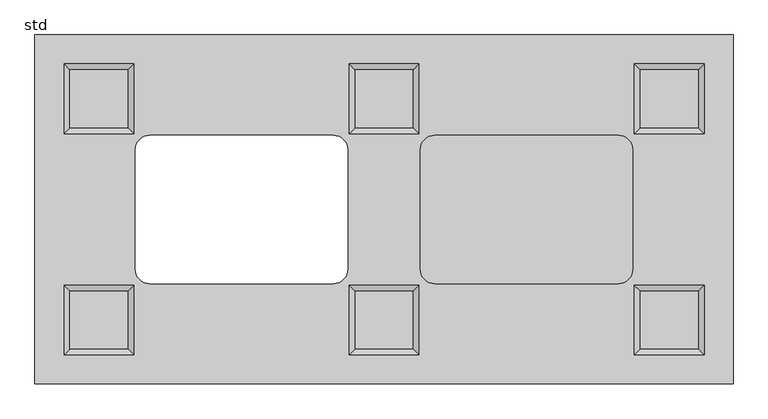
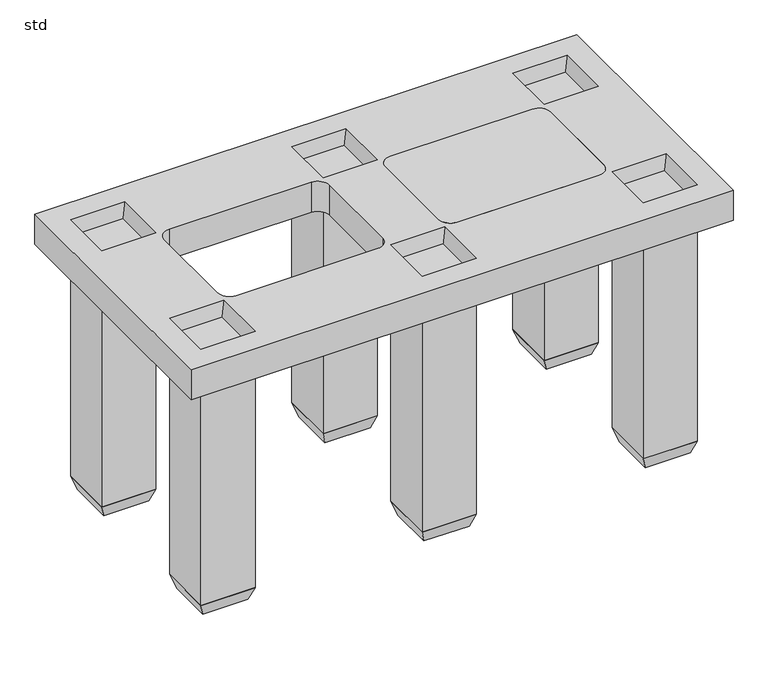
"""IFC4 building model written with IfcOpenShell, lengths in millimetres: unitary equipment geometry, Wavin_MechanicalEquipment_QBicPlusZDoNotUseInfiltrationUnit : std."""

from ifc_helpers import new_model, si_unit, point, frame, frame_2d, origin, origin_with_axes, place, context, project, spatial, polyline, circle_curve, trimmed, segment, composite_curve, outline, extrude, faceted_brep, source, transform, mapped, element, save
from ifc_brep_helpers import plane_surface, revolved_surface, advanced_brep


def std_48edb1db(model_context):
    return source(origin(), model_context, "Body", "SolidModel", [
        extrude(outline(composite_curve([segment(polyline([(687.5, 427.5), (1002.5, 427.5)]), True, "CONTINUOUS"), segment(trimmed(circle_curve(frame_2d((1002.5, 402.5)), 25.0), [point((1002.5, 427.5))], [point((1027.5, 402.5))], False, "CARTESIAN"), True, "CONTINUOUS"), segment(polyline([(1027.5, 402.5), (1027.5, 197.5)]), True, "CONTINUOUS"), segment(trimmed(circle_curve(frame_2d((1002.5, 197.5)), 25.0), [point((1027.5, 197.5))], [point((1002.5, 172.5))], False, "CARTESIAN"), True, "CONTINUOUS"), segment(polyline([(1002.5, 172.5), (687.5, 172.5)]), True, "CONTINUOUS"), segment(trimmed(circle_curve(frame_2d((687.5, 197.5)), 25.0), [point((687.5, 172.5))], [point((662.5, 197.5))], False, "CARTESIAN"), True, "CONTINUOUS"), segment(polyline([(662.5, 197.5), (662.5, 402.5)]), True, "CONTINUOUS"), segment(trimmed(circle_curve(frame_2d((687.5, 402.5)), 25.0), [point((662.5, 402.5))], [point((687.5, 427.5))], False, "CARTESIAN"), True, "CONTINUOUS")], self_intersect=False)), frame((0.0, 0.0, 530.0), z_axis=(0.0, 0.0, 1.0), x_axis=(1.0, 0.0, 0.0)), (0.0, 0.0, 1.0), 70.0),
        advanced_brep(
        [(1200.0, 600.0, 600.0), (0.0, 600.0, 600.0), (0.0, 0.0, 600.0), (1200.0, 0.0, 600.0), (50.0, 550.0, 600.0), (170.0, 550.0, 600.0), (170.0, 430.0, 600.0), (50.0, 430.0, 600.0), (50.0, 170.0, 600.0), (170.0, 170.0, 600.0), (170.0, 50.0, 600.0), (50.0, 50.0, 600.0), (540.0, 170.0, 600.0), (660.0, 170.0, 600.0), (660.0, 50.0, 600.0), (540.0, 50.0, 600.0), (540.0, 550.0, 600.0), (660.0, 550.0, 600.0), (660.0, 430.0, 600.0), (540.0, 430.0, 600.0), (1030.0, 550.0, 600.0), (1150.0, 550.0, 600.0), (1150.0, 430.0, 600.0), (1030.0, 430.0, 600.0), (1030.0, 170.0, 600.0), (1150.0, 170.0, 600.0), (1150.0, 50.0, 600.0), (1030.0, 50.0, 600.0), (172.5, 402.5, 600.0), (197.5, 427.5, 600.0), (512.5, 427.5, 600.0), (537.5, 402.5, 600.0), (537.5, 197.5, 600.0), (512.5, 172.5, 600.0), (197.5, 172.5, 600.0), (172.5, 197.5, 600.0), (662.5, 402.5, 600.0), (687.5, 427.5, 600.0), (1002.5, 427.5, 600.0), (1027.5, 402.5, 600.0), (1027.5, 197.5, 600.0), (1002.5, 172.5, 600.0), (687.5, 172.5, 600.0), (662.5, 197.5, 600.0), (1200.0, 600.0, 530.0), (1200.0, 0.0, 530.0), (0.0, 0.0, 530.0), (0.0, 600.0, 530.0), (172.5, 402.5, 530.0), (172.5, 197.5, 530.0), (197.5, 172.5, 530.0), (512.5, 172.5, 530.0), (537.5, 197.5, 530.0), (537.5, 402.5, 530.0), (512.5, 427.5, 530.0), (197.5, 427.5, 530.0), (662.5, 402.5, 530.0), (662.5, 197.5, 530.0), (687.5, 172.5, 530.0), (1002.5, 172.5, 530.0), (1027.5, 197.5, 530.0), (1027.5, 402.5, 530.0), (1002.5, 427.5, 530.0), (687.5, 427.5, 530.0), (160.0, 540.0, 570.0), (60.0, 540.0, 570.0), (60.0, 440.0, 570.0), (160.0, 440.0, 570.0), (160.0, 160.0, 570.0), (60.0, 160.0, 570.0), (60.0, 60.0, 570.0), (160.0, 60.0, 570.0), (650.0, 540.0, 570.0), (550.0, 540.0, 570.0), (550.0, 440.0, 570.0), (650.0, 440.0, 570.0), (1140.0, 540.0, 570.0), (1040.0, 540.0, 570.0), (1040.0, 440.0, 570.0), (1140.0, 440.0, 570.0), (650.0, 160.0, 570.0), (550.0, 160.0, 570.0), (550.0, 60.0, 570.0), (650.0, 60.0, 570.0), (1140.0, 160.0, 570.0), (1040.0, 160.0, 570.0), (1040.0, 60.0, 570.0), (1140.0, 60.0, 570.0)],
        [
            (0, 1),
            (1, 2),
            (2, 3),
            (3, 0),
            (4, 5),
            (5, 6),
            (6, 7),
            (7, 4),
            (8, 9),
            (9, 10),
            (10, 11),
            (11, 8),
            (12, 13),
            (13, 14),
            (14, 15),
            (15, 12),
            (16, 17),
            (17, 18),
            (18, 19),
            (19, 16),
            (20, 21),
            (21, 22),
            (22, 23),
            (23, 20),
            (24, 25),
            (25, 26),
            (26, 27),
            (27, 24),
            (28, 29, circle_curve(frame((197.5, 402.5, 600.0), z_axis=(0.0, 0.0, -1.0), x_axis=(1.0, 0.0, 0.0)), 25.0)),
            (29, 30),
            (30, 31, circle_curve(frame((512.5, 402.5, 600.0), z_axis=(0.0, 0.0, -1.0), x_axis=(1.0, 0.0, 0.0)), 25.0)),
            (31, 32),
            (32, 33, circle_curve(frame((512.5, 197.5, 600.0), z_axis=(0.0, 0.0, -1.0), x_axis=(1.0, 0.0, 0.0)), 25.0)),
            (33, 34),
            (34, 35, circle_curve(frame((197.5, 197.5, 600.0), z_axis=(0.0, 0.0, -1.0), x_axis=(1.0, 0.0, 0.0)), 25.0)),
            (35, 28),
            (36, 37, circle_curve(frame((687.5, 402.5, 600.0), z_axis=(0.0, 0.0, -1.0), x_axis=(1.0, 0.0, 0.0)), 25.0)),
            (37, 38),
            (38, 39, circle_curve(frame((1002.5, 402.5, 600.0), z_axis=(0.0, 0.0, -1.0), x_axis=(1.0, 0.0, 0.0)), 25.0)),
            (39, 40),
            (40, 41, circle_curve(frame((1002.5, 197.5, 600.0), z_axis=(0.0, 0.0, -1.0), x_axis=(1.0, 0.0, 0.0)), 25.0)),
            (41, 42),
            (42, 43, circle_curve(frame((687.5, 197.5, 600.0), z_axis=(0.0, 0.0, -1.0), x_axis=(1.0, 0.0, 0.0)), 25.0)),
            (43, 36),
            (44, 45),
            (45, 46),
            (46, 47),
            (47, 44),
            (48, 49),
            (49, 50, circle_curve(frame((197.5, 197.5, 530.0), z_axis=(0.0, 0.0, 1.0), x_axis=(1.0, 0.0, 0.0)), 25.0)),
            (50, 51),
            (51, 52, circle_curve(frame((512.5, 197.5, 530.0), z_axis=(0.0, 0.0, 1.0), x_axis=(1.0, 0.0, 0.0)), 25.0)),
            (52, 53),
            (53, 54, circle_curve(frame((512.5, 402.5, 530.0), z_axis=(0.0, 0.0, 1.0), x_axis=(1.0, 0.0, 0.0)), 25.0)),
            (54, 55),
            (55, 48, circle_curve(frame((197.5, 402.5, 530.0), z_axis=(0.0, 0.0, 1.0), x_axis=(1.0, 0.0, 0.0)), 25.0)),
            (56, 57),
            (57, 58, circle_curve(frame((687.5, 197.5, 530.0), z_axis=(0.0, 0.0, 1.0), x_axis=(1.0, 0.0, 0.0)), 25.0)),
            (58, 59),
            (59, 60, circle_curve(frame((1002.5, 197.5, 530.0), z_axis=(0.0, 0.0, 1.0), x_axis=(1.0, 0.0, 0.0)), 25.0)),
            (60, 61),
            (61, 62, circle_curve(frame((1002.5, 402.5, 530.0), z_axis=(0.0, 0.0, 1.0), x_axis=(1.0, 0.0, 0.0)), 25.0)),
            (62, 63),
            (63, 56, circle_curve(frame((687.5, 402.5, 530.0), z_axis=(0.0, 0.0, 1.0), x_axis=(1.0, 0.0, 0.0)), 25.0)),
            (0, 44),
            (47, 1),
            (46, 2),
            (45, 3),
            (64, 65),
            (65, 66),
            (66, 67),
            (67, 64),
            (64, 5),
            (4, 65),
            (7, 66),
            (6, 67),
            (68, 69),
            (69, 70),
            (70, 71),
            (71, 68),
            (68, 9),
            (8, 69),
            (11, 70),
            (10, 71),
            (72, 73),
            (73, 74),
            (74, 75),
            (75, 72),
            (72, 17),
            (16, 73),
            (19, 74),
            (18, 75),
            (76, 77),
            (77, 78),
            (78, 79),
            (79, 76),
            (76, 21),
            (20, 77),
            (23, 78),
            (22, 79),
            (80, 81),
            (81, 82),
            (82, 83),
            (83, 80),
            (80, 13),
            (12, 81),
            (15, 82),
            (14, 83),
            (84, 85),
            (85, 86),
            (86, 87),
            (87, 84),
            (84, 25),
            (24, 85),
            (27, 86),
            (26, 87),
            (28, 48),
            (55, 29),
            (54, 30),
            (53, 31),
            (52, 32),
            (51, 33),
            (50, 34),
            (49, 35),
            (36, 56),
            (63, 37),
            (62, 38),
            (61, 39),
            (60, 40),
            (59, 41),
            (58, 42),
            (57, 43),
        ],
        [
            plane_surface(frame((0.0, 600.0, 600.0), z_axis=(0.0, 0.0, 1.0), x_axis=(-1.0, 0.0, 0.0))),
            plane_surface(frame((0.0, 600.0, 530.0), z_axis=(0.0, 0.0, -1.0), x_axis=(1.0, 0.0, 0.0))),
            plane_surface(frame((1200.0, 600.0, 600.0), z_axis=(0.0, 1.0, 0.0), x_axis=(0.0, 0.0, -1.0))),
            plane_surface(frame((0.0, 600.0, 600.0), z_axis=(-1.0, 0.0, 0.0), x_axis=(0.0, 0.0, -1.0))),
            plane_surface(frame((0.0, 0.0, 600.0), z_axis=(0.0, -1.0, 0.0), x_axis=(0.0, 0.0, -1.0))),
            plane_surface(frame((1200.0, 0.0, 600.0), z_axis=(1.0, 0.0, 0.0), x_axis=(0.0, 0.0, -1.0))),
            plane_surface(frame((110.0, 490.0, 570.0), z_axis=(0.0, 0.0, 1.0), x_axis=(-1.0, 0.0, 0.0))),
            plane_surface(frame((110.0, 550.0, 600.0), z_axis=(0.0, -0.9486832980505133, 0.3162277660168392), x_axis=(1.0, 0.0, 0.0))),
            plane_surface(frame((50.0, 490.0, 600.0), z_axis=(0.9486832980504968, 0.0, 0.3162277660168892), x_axis=(0.0, 1.0, 0.0))),
            plane_surface(frame((110.0, 430.0, 600.0), z_axis=(0.0, 0.9486832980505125, 0.31622776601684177), x_axis=(-1.0, 0.0, 0.0))),
            plane_surface(frame((170.0, 490.0, 600.0), z_axis=(-0.948683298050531, 0.0, 0.3162277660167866), x_axis=(0.0, -1.0, 0.0))),
            plane_surface(frame((110.0, 110.0, 570.0), z_axis=(0.0, 0.0, 1.0), x_axis=(-1.0, 0.0, 0.0))),
            plane_surface(frame((110.0, 170.0, 600.0), z_axis=(0.0, -0.9486832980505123, 0.31622776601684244), x_axis=(1.0, 0.0, 0.0))),
            plane_surface(frame((50.0, 110.0, 600.0), z_axis=(0.948683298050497, 0.0, 0.3162277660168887), x_axis=(0.0, 1.0, 0.0))),
            plane_surface(frame((110.0, 50.0, 600.0), z_axis=(0.0, 0.9486832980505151, 0.31622776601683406), x_axis=(-1.0, 0.0, 0.0))),
            plane_surface(frame((170.0, 110.0, 600.0), z_axis=(-0.9486832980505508, 0.0, 0.31622776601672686), x_axis=(0.0, -1.0, 0.0))),
            plane_surface(frame((600.0, 490.0, 570.0), z_axis=(0.0, 0.0, 1.0), x_axis=(-1.0, 0.0, 0.0))),
            plane_surface(frame((600.0, 550.0, 600.0), z_axis=(0.0, -0.9486832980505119, 0.3162277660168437), x_axis=(1.0, 0.0, 0.0))),
            plane_surface(frame((540.0, 490.0, 600.0), z_axis=(0.9486832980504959, 0.0, 0.3162277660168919), x_axis=(0.0, 1.0, 0.0))),
            plane_surface(frame((600.0, 430.0, 600.0), z_axis=(0.0, 0.948683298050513, 0.31622776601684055), x_axis=(-1.0, 0.0, 0.0))),
            plane_surface(frame((660.0, 490.0, 600.0), z_axis=(-0.9486832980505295, 0.0, 0.3162277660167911), x_axis=(0.0, -1.0, 0.0))),
            plane_surface(frame((1090.0, 490.0, 570.0), z_axis=(0.0, 0.0, 1.0), x_axis=(-1.0, 0.0, 0.0))),
            plane_surface(frame((1090.0, 550.0, 600.0), z_axis=(0.0, -0.9486832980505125, 0.3162277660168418), x_axis=(1.0, 0.0, 0.0))),
            plane_surface(frame((1030.0, 490.0, 600.0), z_axis=(0.9486832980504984, 0.0, 0.3162277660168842), x_axis=(0.0, 1.0, 0.0))),
            plane_surface(frame((1090.0, 430.0, 600.0), z_axis=(0.0, 0.9486832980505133, 0.3162277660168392), x_axis=(-1.0, 0.0, 0.0))),
            plane_surface(frame((1150.0, 490.0, 600.0), z_axis=(-0.9486832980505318, 0.0, 0.316227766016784), x_axis=(0.0, -1.0, 0.0))),
            plane_surface(frame((600.0, 110.0, 570.0), z_axis=(0.0, 0.0, 1.0), x_axis=(-1.0, 0.0, 0.0))),
            plane_surface(frame((600.0, 170.0, 600.0), z_axis=(0.0, -0.9486832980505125, 0.31622776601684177), x_axis=(1.0, 0.0, 0.0))),
            plane_surface(frame((540.0, 110.0, 600.0), z_axis=(0.9486832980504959, 0.0, 0.3162277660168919), x_axis=(0.0, 1.0, 0.0))),
            plane_surface(frame((600.0, 50.0, 600.0), z_axis=(0.0, 0.9486832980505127, 0.31622776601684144), x_axis=(-1.0, 0.0, 0.0))),
            plane_surface(frame((660.0, 110.0, 600.0), z_axis=(-0.9486832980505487, 0.0, 0.3162277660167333), x_axis=(0.0, -1.0, 0.0))),
            plane_surface(frame((1090.0, 110.0, 570.0), z_axis=(0.0, 0.0, 1.0), x_axis=(-1.0, 0.0, 0.0))),
            plane_surface(frame((1090.0, 170.0, 600.0), z_axis=(0.0, -0.948683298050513, 0.31622776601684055), x_axis=(1.0, 0.0, 0.0))),
            plane_surface(frame((1030.0, 110.0, 600.0), z_axis=(0.9486832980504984, 0.0, 0.3162277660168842), x_axis=(0.0, 1.0, 0.0))),
            plane_surface(frame((1090.0, 50.0, 600.0), z_axis=(0.0, 0.948683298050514, 0.31622776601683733), x_axis=(-1.0, 0.0, 0.0))),
            plane_surface(frame((1150.0, 110.0, 600.0), z_axis=(-0.9486832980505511, 0.0, 0.31622776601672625), x_axis=(0.0, -1.0, 0.0))),
            revolved_surface(polyline([(222.5, 402.5, 530.0), (222.5, 402.5, 600.0)]), (197.5, 402.5, 0.0), (0.0, 0.0, -1.0)),
            plane_surface(frame((197.5, 427.5, 600.0), z_axis=(0.0, -1.0, 0.0), x_axis=(0.0, 0.0, -1.0))),
            revolved_surface(polyline([(537.5, 402.5, 530.0), (537.5, 402.5, 600.0)]), (512.5, 402.5, 0.0), (0.0, 0.0, -1.0)),
            plane_surface(frame((537.5, 402.5, 600.0), z_axis=(-1.0, 0.0, 0.0), x_axis=(0.0, 0.0, -1.0))),
            revolved_surface(polyline([(537.5, 197.5, 530.0), (537.5, 197.5, 600.0)]), (512.5, 197.5, 0.0), (0.0, 0.0, -1.0)),
            plane_surface(frame((512.5, 172.5, 600.0), z_axis=(0.0, 1.0, 0.0), x_axis=(0.0, 0.0, -1.0))),
            revolved_surface(polyline([(222.5, 197.5, 530.0), (222.5, 197.5, 600.0)]), (197.5, 197.5, 0.0), (0.0, 0.0, -1.0)),
            plane_surface(frame((172.5, 197.5, 600.0), z_axis=(1.0, 0.0, 0.0), x_axis=(0.0, 0.0, -1.0))),
            revolved_surface(polyline([(712.5, 402.5, 530.0), (712.5, 402.5, 600.0)]), (687.5, 402.5, 0.0), (0.0, 0.0, -1.0)),
            plane_surface(frame((687.5, 427.5, 600.0), z_axis=(0.0, -1.0, 0.0), x_axis=(0.0, 0.0, -1.0))),
            revolved_surface(polyline([(1027.5, 402.5, 530.0), (1027.5, 402.5, 600.0)]), (1002.5, 402.5, 0.0), (0.0, 0.0, -1.0)),
            plane_surface(frame((1027.5, 402.5, 600.0), z_axis=(-1.0, 0.0, 0.0), x_axis=(0.0, 0.0, -1.0))),
            revolved_surface(polyline([(1027.5, 197.5, 530.0), (1027.5, 197.5, 600.0)]), (1002.5, 197.5, 0.0), (0.0, 0.0, -1.0)),
            plane_surface(frame((1002.5, 172.5, 600.0), z_axis=(0.0, 1.0, 0.0), x_axis=(0.0, 0.0, -1.0))),
            revolved_surface(polyline([(712.5, 197.5, 530.0), (712.5, 197.5, 600.0)]), (687.5, 197.5, 0.0), (0.0, 0.0, -1.0)),
            plane_surface(frame((662.5, 197.5, 600.0), z_axis=(1.0, 0.0, 0.0), x_axis=(0.0, 0.0, -1.0))),
        ],
        [
            (0, [[1, 2, 3, 4], [5, 6, 7, 8], [9, 10, 11, 12], [13, 14, 15, 16], [17, 18, 19, 20], [21, 22, 23, 24], [25, 26, 27, 28], [29, 30, 31, 32, 33, 34, 35, 36], [37, 38, 39, 40, 41, 42, 43, 44]]),
            (1, [[45, 46, 47, 48], [49, 50, 51, 52, 53, 54, 55, 56], [57, 58, 59, 60, 61, 62, 63, 64]]),
            (2, [[-1, 65, -48, 66]]),
            (3, [[-2, -66, -47, 67]]),
            (4, [[-3, -67, -46, 68]]),
            (5, [[-4, -68, -45, -65]]),
            (6, [[69, 70, 71, 72]]),
            (7, [[-69, 73, -5, 74]]),
            (8, [[-70, -74, -8, 75]]),
            (9, [[-71, -75, -7, 76]]),
            (10, [[-72, -76, -6, -73]]),
            (11, [[77, 78, 79, 80]]),
            (12, [[-77, 81, -9, 82]]),
            (13, [[-78, -82, -12, 83]]),
            (14, [[-79, -83, -11, 84]]),
            (15, [[-80, -84, -10, -81]]),
            (16, [[85, 86, 87, 88]]),
            (17, [[-85, 89, -17, 90]]),
            (18, [[-86, -90, -20, 91]]),
            (19, [[-87, -91, -19, 92]]),
            (20, [[-88, -92, -18, -89]]),
            (21, [[93, 94, 95, 96]]),
            (22, [[-93, 97, -21, 98]]),
            (23, [[-94, -98, -24, 99]]),
            (24, [[-95, -99, -23, 100]]),
            (25, [[-96, -100, -22, -97]]),
            (26, [[101, 102, 103, 104]]),
            (27, [[-101, 105, -13, 106]]),
            (28, [[-102, -106, -16, 107]]),
            (29, [[-103, -107, -15, 108]]),
            (30, [[-104, -108, -14, -105]]),
            (31, [[109, 110, 111, 112]]),
            (32, [[-109, 113, -25, 114]]),
            (33, [[-110, -114, -28, 115]]),
            (34, [[-111, -115, -27, 116]]),
            (35, [[-112, -116, -26, -113]]),
            (36, [[-29, 117, -56, 118]]),
            (37, [[-30, -118, -55, 119]]),
            (38, [[-31, -119, -54, 120]]),
            (39, [[-32, -120, -53, 121]]),
            (40, [[-33, -121, -52, 122]]),
            (41, [[-34, -122, -51, 123]]),
            (42, [[-35, -123, -50, 124]]),
            (43, [[-36, -124, -49, -117]]),
            (44, [[-37, 125, -64, 126]]),
            (45, [[-38, -126, -63, 127]]),
            (46, [[-39, -127, -62, 128]]),
            (47, [[-40, -128, -61, 129]]),
            (48, [[-41, -129, -60, 130]]),
            (49, [[-42, -130, -59, 131]]),
            (50, [[-43, -131, -58, 132]]),
            (51, [[-44, -132, -57, -125]]),
        ],
    ),
        faceted_brep([(1140.0, 160.0, -30.0), (1140.0, 60.0, -30.0), (1040.0, 60.0, -30.0), (1040.0, 160.0, -30.0), (1150.0, 170.0, 0.0), (1030.0, 170.0, 0.0), (1030.0, 50.0, 0.0), (1150.0, 50.0, 0.0)], [[[0, 1, 2, 3]], [[4, 5, 6, 7]], [[5, 4, 0, 3]], [[6, 5, 3, 2]], [[7, 6, 2, 1]], [[4, 7, 1, 0]]]),
        faceted_brep([(650.0, 160.0, -30.0), (650.0, 60.0, -30.0), (550.0, 60.0, -30.0), (550.0, 160.0, -30.0), (660.0, 170.0, 0.0), (540.0, 170.0, 0.0), (540.0, 50.0, 0.0), (660.0, 50.0, 0.0)], [[[0, 1, 2, 3]], [[4, 5, 6, 7]], [[5, 4, 0, 3]], [[6, 5, 3, 2]], [[7, 6, 2, 1]], [[4, 7, 1, 0]]]),
        faceted_brep([(160.0, 160.0, -30.0), (160.0, 60.0, -30.0), (60.0, 60.0, -30.0), (60.0, 160.0, -30.0), (170.0, 170.0, 0.0), (50.0, 170.0, 0.0), (50.0, 50.0, 0.0), (170.0, 50.0, 0.0)], [[[0, 1, 2, 3]], [[4, 5, 6, 7]], [[5, 4, 0, 3]], [[6, 5, 3, 2]], [[7, 6, 2, 1]], [[4, 7, 1, 0]]]),
        faceted_brep([(1140.0, 540.0, -30.0), (1140.0, 440.0, -30.0), (1040.0, 440.0, -30.0), (1040.0, 540.0, -30.0), (1150.0, 550.0, 0.0), (1030.0, 550.0, 0.0), (1030.0, 430.0, 0.0), (1150.0, 430.0, 0.0)], [[[0, 1, 2, 3]], [[4, 5, 6, 7]], [[5, 4, 0, 3]], [[6, 5, 3, 2]], [[7, 6, 2, 1]], [[4, 7, 1, 0]]]),
        faceted_brep([(650.0, 540.0, -30.0), (650.0, 440.0, -30.0), (550.0, 440.0, -30.0), (550.0, 540.0, -30.0), (660.0, 550.0, 0.0), (540.0, 550.0, 0.0), (540.0, 430.0, 0.0), (660.0, 430.0, 0.0)], [[[0, 1, 2, 3]], [[4, 5, 6, 7]], [[5, 4, 0, 3]], [[6, 5, 3, 2]], [[7, 6, 2, 1]], [[4, 7, 1, 0]]]),
        faceted_brep([(160.0, 540.0, -30.0), (160.0, 440.0, -30.0), (60.0, 440.0, -30.0), (60.0, 540.0, -30.0), (170.0, 550.0, 0.0), (50.0, 550.0, 0.0), (50.0, 430.0, 0.0), (170.0, 430.0, 0.0)], [[[0, 1, 2, 3]], [[4, 5, 6, 7]], [[5, 4, 0, 3]], [[6, 5, 3, 2]], [[7, 6, 2, 1]], [[4, 7, 1, 0]]]),
        extrude(outline(polyline([(170.0, 550.0), (170.0, 430.0), (50.0, 430.0), (50.0, 550.0), (170.0, 550.0)])), origin_with_axes(), (0.0, 0.0, 1.0), 530.0),
        extrude(outline(polyline([(170.0, 170.0), (170.0, 50.0), (50.0, 50.0), (50.0, 170.0), (170.0, 170.0)])), origin_with_axes(), (0.0, 0.0, 1.0), 530.0),
        extrude(outline(polyline([(660.0, 550.0), (660.0, 430.0), (540.0, 430.0), (540.0, 550.0), (660.0, 550.0)])), origin_with_axes(), (0.0, 0.0, 1.0), 530.0),
        extrude(outline(polyline([(660.0, 170.0), (660.0, 50.0), (540.0, 50.0), (540.0, 170.0), (660.0, 170.0)])), origin_with_axes(), (0.0, 0.0, 1.0), 530.0),
        extrude(outline(polyline([(1150.0, 550.0), (1150.0, 430.0), (1030.0, 430.0), (1030.0, 550.0), (1150.0, 550.0)])), origin_with_axes(), (0.0, 0.0, 1.0), 530.0),
        extrude(outline(polyline([(1150.0, 170.0), (1150.0, 50.0), (1030.0, 50.0), (1030.0, 170.0), (1150.0, 170.0)])), origin_with_axes(), (0.0, 0.0, 1.0), 530.0),
    ])


if __name__ == "__main__":
    model = new_model("IFC4")
    model_context = context("Model", 3, world=origin())
    ifc_project = project(units=[si_unit("LENGTHUNIT", "METRE", prefix="MILLI")], contexts=[model_context])
    site = spatial("IfcSite", under=ifc_project)
    building = spatial("IfcBuilding", under=site)
    placement = place(None, origin())
    std_shape = std_48edb1db(model_context)
    element("IfcUnitaryEquipment", 1, ObjectType="Wavin_MechanicalEquipment_QBicPlusZDoNotUseInfiltrationUnit : std", at=placement, inside=building, context=model_context, shape_type="MappedRepresentation", body=[
        mapped(std_shape, transform((0.0, 0.0, 0.0), x_axis=(1.0, 0.0, 0.0), y_axis=(0.0, 1.0, 0.0), z_axis=(0.0, 0.0, 1.0))),
    ])
    save(model, "model.ifc")
